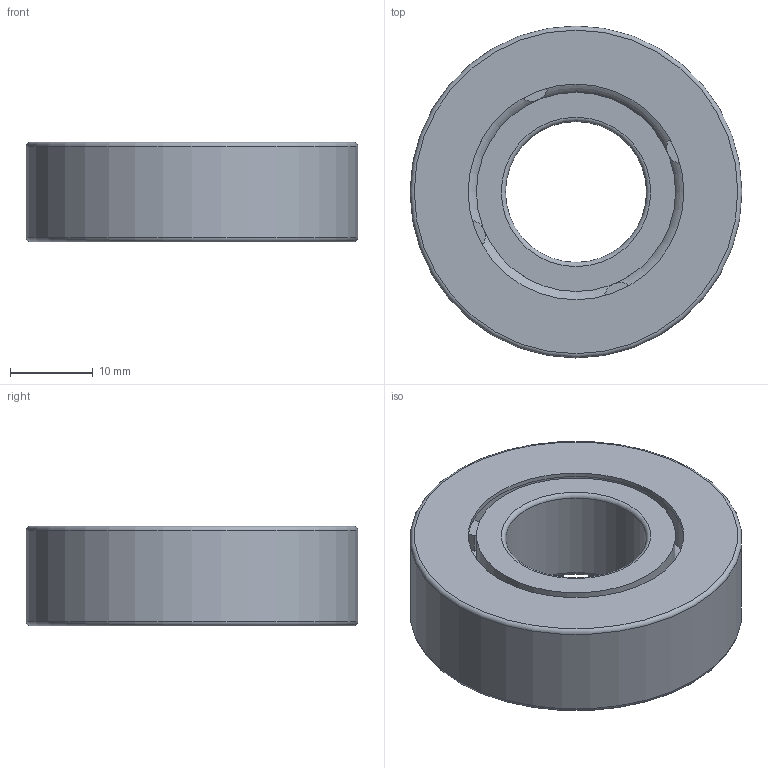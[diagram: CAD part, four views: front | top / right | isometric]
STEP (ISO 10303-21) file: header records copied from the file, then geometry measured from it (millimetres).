
FILE_DESCRIPTION(/* description */ (''),/* implementation_level */ '2;1');
FILE_NAME(/* name */ '301065 FK 6203.stp',/* time_stamp */ '2016-11-18T11:25:42+01:00',/* author */ (''),/* organization */ (''),/* preprocessor_version */ 'ST-DEVELOPER v15',/* originating_system */ 'SIEMENS PLM Software NX 8.5',/* authorisation */ '');
FILE_SCHEMA (('CONFIG_CONTROL_DESIGN'));
Length unit declared in the file: millimetre
Products named in the file (3): ATE0000079_01; ATE0000108_01; ATE0000109_01
Assembly tree (2 placements, depth 2):
  ATE0000109_01
    ATE0000108_01
    ATE0000079_01
Bounding box: 40 x 40 x 12 mm (x, y, z)
Volume: 10447.5 mm3; surface area: 7808.9 mm2
Topology: 2 solids, 2 shells, 66 faces, 147 edges, 96 vertices
Faces by surface type: plane 41, cylinder 19, torus 6
Full cylindrical faces by diameter (mm): 17 x1, 24 x2, 26 x1, 28 x1, 30 x1, 31 x2, 32 x2, 40 x1
Entity records: 2006 total; most frequent: DIRECTION 318, CARTESIAN_POINT 281, ORIENTED_EDGE 244, AXIS2_PLACEMENT_3D 127, EDGE_CURVE 122, EDGE_LOOP 100, VERTEX_POINT 90, ADVANCED_FACE 66
